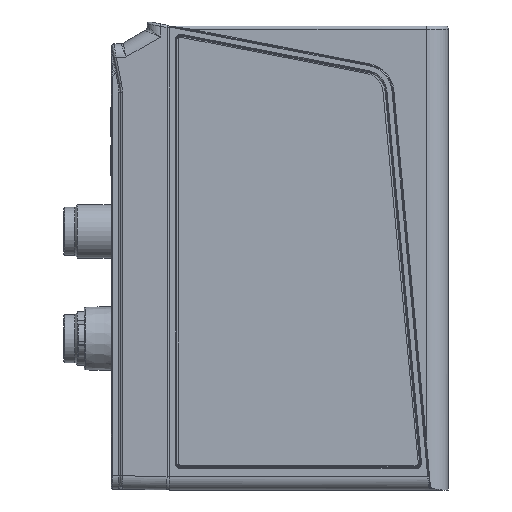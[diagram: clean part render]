
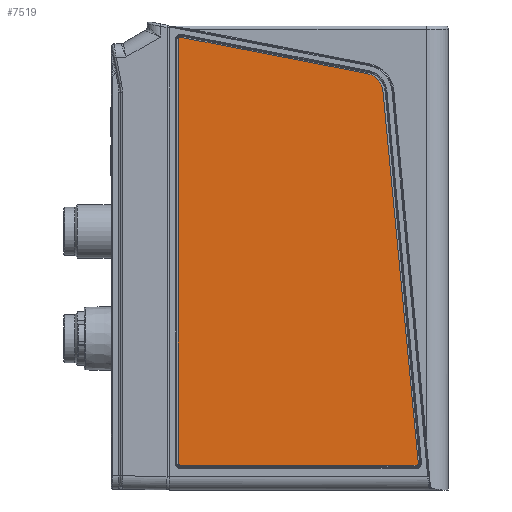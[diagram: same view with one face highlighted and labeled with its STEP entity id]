
A CAD part, front view. The second image highlights one B-rep face of the part: STEP entity #7519.
In plain terms, the highlighted planar face has unit normal (0, -1, 0).
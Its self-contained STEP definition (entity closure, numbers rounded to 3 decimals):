
#4557=CIRCLE('',#37491,4.5);
#4558=CIRCLE('',#37492,0.5);
#4559=CIRCLE('',#37493,0.5);
#4560=CIRCLE('',#37494,0.5);
#7519=ADVANCED_FACE('',(#10210),#8479,.T.);
#8479=PLANE('',#37495);
#10210=FACE_OUTER_BOUND('',#12287,.T.);
#12287=EDGE_LOOP('',(#20731,#20732,#20733,#20734,#20735,#20736,#20737,#20738));
#20731=ORIENTED_EDGE('',*,*,#29121,.T.);
#20732=ORIENTED_EDGE('',*,*,#29126,.T.);
#20733=ORIENTED_EDGE('',*,*,#29117,.T.);
#20734=ORIENTED_EDGE('',*,*,#29127,.T.);
#20735=ORIENTED_EDGE('',*,*,#29114,.T.);
#20736=ORIENTED_EDGE('',*,*,#29128,.T.);
#20737=ORIENTED_EDGE('',*,*,#29123,.T.);
#20738=ORIENTED_EDGE('',*,*,#29129,.T.);
#24590=VERTEX_POINT('',#69426);
#24591=VERTEX_POINT('',#69427);
#24592=VERTEX_POINT('',#69432);
#24593=VERTEX_POINT('',#69433);
#24594=VERTEX_POINT('',#69438);
#24595=VERTEX_POINT('',#69440);
#24596=VERTEX_POINT('',#69444);
#24597=VERTEX_POINT('',#69445);
#29114=EDGE_CURVE('',#24590,#24591,#31947,.T.);
#29117=EDGE_CURVE('',#24592,#24593,#31950,.T.);
#29121=EDGE_CURVE('',#24595,#24594,#31954,.T.);
#29123=EDGE_CURVE('',#24596,#24597,#31956,.T.);
#29126=EDGE_CURVE('',#24594,#24592,#4557,.T.);
#29127=EDGE_CURVE('',#24593,#24590,#4558,.T.);
#29128=EDGE_CURVE('',#24591,#24596,#4559,.T.);
#29129=EDGE_CURVE('',#24597,#24595,#4560,.T.);
#31947=LINE('',#69425,#34607);
#31950=LINE('',#69431,#34610);
#31954=LINE('',#69439,#34614);
#31956=LINE('',#69443,#34616);
#34607=VECTOR('',#44732,1.);
#34610=VECTOR('',#44737,1.);
#34614=VECTOR('',#44743,1.);
#34616=VECTOR('',#44747,1.);
#37491=AXIS2_PLACEMENT_3D('',#69449,#44752,#44753);
#37492=AXIS2_PLACEMENT_3D('',#69450,#44754,#44755);
#37493=AXIS2_PLACEMENT_3D('',#69451,#44756,#44757);
#37494=AXIS2_PLACEMENT_3D('',#69452,#44758,#44759);
#37495=AXIS2_PLACEMENT_3D('',#69453,#44760,#44761);
#44732=DIRECTION('',(0.,0.,-1.));
#44737=DIRECTION('',(-0.982,0.,0.191));
#44743=DIRECTION('',(-0.094,0.,0.996));
#44747=DIRECTION('',(1.,0.,0.));
#44752=DIRECTION('',(0.,-1.,0.));
#44753=DIRECTION('',(0.,0.,-1.));
#44754=DIRECTION('',(0.,-1.,0.));
#44755=DIRECTION('',(0.,0.,-1.));
#44756=DIRECTION('',(0.,-1.,0.));
#44757=DIRECTION('',(0.,0.,-1.));
#44758=DIRECTION('',(0.,-1.,0.));
#44759=DIRECTION('',(0.,0.,-1.));
#44760=DIRECTION('',(0.,-1.,0.));
#44761=DIRECTION('',(0.,0.,-1.));
#69425=CARTESIAN_POINT('',(-31.,-33.65,-8.9));
#69426=CARTESIAN_POINT('',(-31.,-33.65,86.487));
#69427=CARTESIAN_POINT('',(-31.,-33.65,-8.4));
#69431=CARTESIAN_POINT('',(-31.,-33.65,87.093));
#69432=CARTESIAN_POINT('',(11.229,-33.65,78.885));
#69433=CARTESIAN_POINT('',(-30.405,-33.65,86.978));
#69438=CARTESIAN_POINT('',(14.85,-33.65,74.893));
#69439=CARTESIAN_POINT('',(14.532,-33.65,78.243));
#69440=CARTESIAN_POINT('',(22.748,-33.65,-8.353));
#69443=CARTESIAN_POINT('',(22.8,-33.65,-8.9));
#69444=CARTESIAN_POINT('',(-30.5,-33.65,-8.9));
#69445=CARTESIAN_POINT('',(22.251,-33.65,-8.9));
#69449=CARTESIAN_POINT('',(10.37,-33.65,74.468));
#69450=CARTESIAN_POINT('',(-30.5,-33.65,86.487));
#69451=CARTESIAN_POINT('',(-30.5,-33.65,-8.4));
#69452=CARTESIAN_POINT('',(22.251,-33.65,-8.4));
#69453=CARTESIAN_POINT('',(0.,-33.65,0.));
